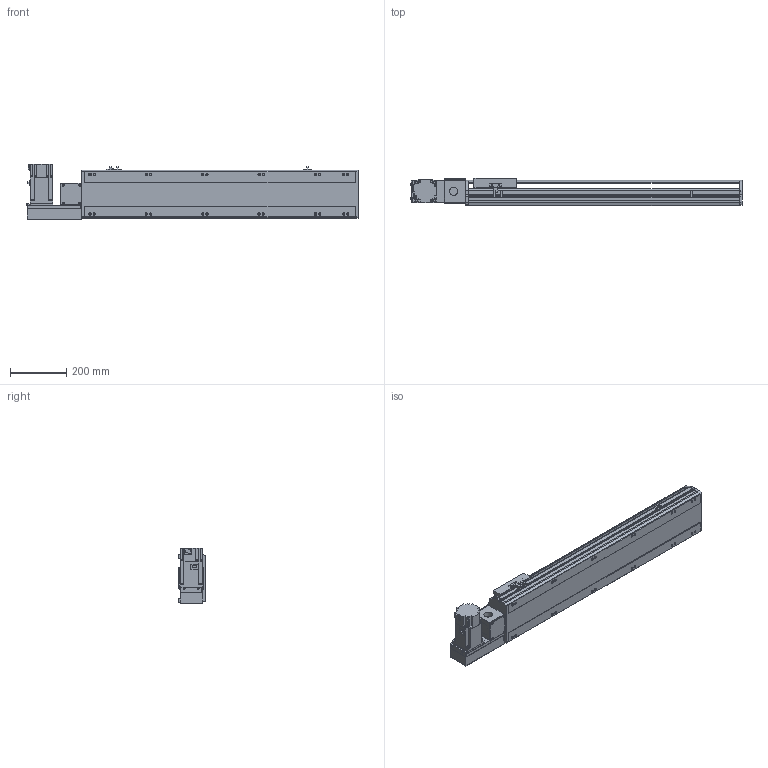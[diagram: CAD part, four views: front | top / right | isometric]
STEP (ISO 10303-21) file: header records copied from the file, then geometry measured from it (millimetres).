
FILE_DESCRIPTION( ( 'STEP AP214' ), '1' );
FILE_NAME( 'x:/temp/worker_3/temp/exporttempdir_5796_96_6l78M/format_0/PBS170-P40-S700-L-T75-C1-N(0).stp', '2022-06-07T06:54:28', ( 'License CC BY-ND 4.0' ), ( 'CADENAS' ), ' ', 'PARTsolutions', ' ' );
FILE_SCHEMA( ( 'AUTOMOTIVE_DESIGN { 1 0 10303 214 1 1 1 1 }' ) );
Length unit declared in the file: millimetre
Products named in the file (7): PBS170-P40-S700-L-T75-C1-N(0); _PBS170-S700()_body; _PBS170T-L_motors; _T75-p1; _PBS170_sliser; _PBS170_plant; _PBS170_sensor
Assembly tree (8 placements, depth 2):
  PBS170-P40-S700-L-T75-C1-N(0)
    _PBS170-S700()_body
    _PBS170T-L_motors
    _T75-p1
    _PBS170_sliser
    _PBS170_plant
    _PBS170_sensor  x3
Bounding box: 1178 x 97 x 197.3 mm (x, y, z)
Volume: 8851753.7 mm3; surface area: 1182694.4 mm2
Topology: 8 solids, 8 shells, 1050 faces, 2795 edges, 1822 vertices
Faces by surface type: plane 675, cylinder 323, cone 42, sphere 8, torus 2
Full cylindrical faces by diameter (mm): 3.242 x4, 4 x2, 4.4 x4, 4.5 x6, 4.917 x4, 6 x9, 6.647 x20, 7 x2, 7.5 x4, 8 x8, 8.5 x12, 10 x4, 10.5 x12, 11 x2, 30 x2, 40 x1, 70 x1
Entity records: 38456 total; most frequent: CARTESIAN_POINT 5885, DIRECTION 5160, ORIENTED_EDGE 4908, EDGE_CURVE 2454, AXIS2_PLACEMENT_3D 1777, VERTEX_POINT 1682, LINE 1606, VECTOR 1606
